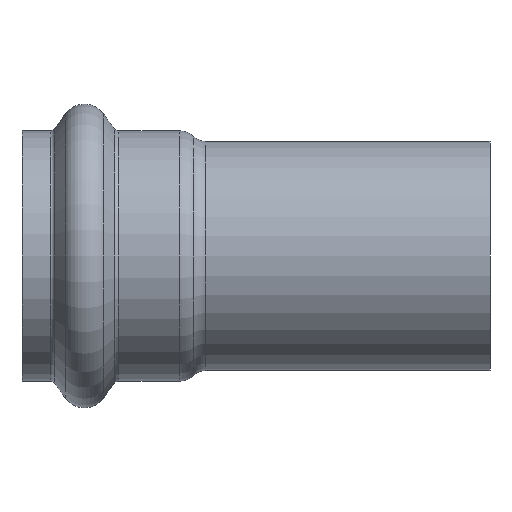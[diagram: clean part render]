
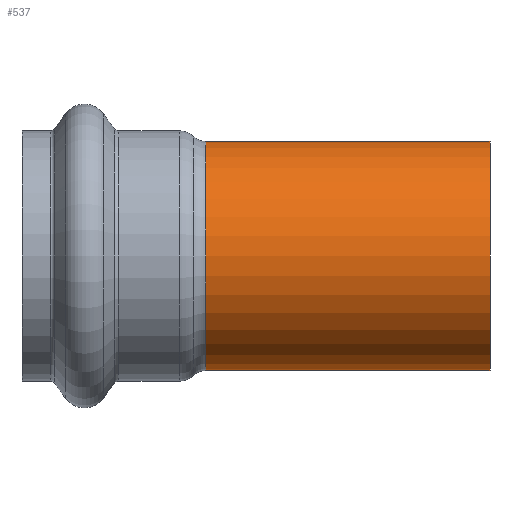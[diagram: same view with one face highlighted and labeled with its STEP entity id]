
A CAD part, front view. The second image highlights one B-rep face of the part: STEP entity #537.
In plain terms, the highlighted cylindrical face has radius 30.163 mm (diameter 60.325 mm), a full revolution.
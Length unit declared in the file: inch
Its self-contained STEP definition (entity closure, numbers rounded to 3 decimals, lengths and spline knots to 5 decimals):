
#50=CYLINDRICAL_SURFACE('',#610,1.1875);
#58=LINE('',#972,#68);
#68=VECTOR('',#765,1.1875);
#87=FACE_OUTER_BOUND('',#109,.T.);
#109=EDGE_LOOP('',(#397,#398,#399,#400,#401,#402,#403));
#153=CIRCLE('',#607,1.1875);
#154=CIRCLE('',#608,1.1875);
#155=CIRCLE('',#609,1.1875);
#156=CIRCLE('',#611,1.1875);
#157=CIRCLE('',#612,1.1875);
#218=VERTEX_POINT('',#960);
#219=VERTEX_POINT('',#962);
#220=VERTEX_POINT('',#964);
#221=VERTEX_POINT('',#968);
#222=VERTEX_POINT('',#969);
#286=EDGE_CURVE('',#219,#218,#153,.T.);
#287=EDGE_CURVE('',#220,#219,#154,.T.);
#288=EDGE_CURVE('',#218,#220,#155,.T.);
#289=EDGE_CURVE('',#221,#222,#156,.T.);
#290=EDGE_CURVE('',#222,#221,#157,.T.);
#291=EDGE_CURVE('',#222,#220,#58,.T.);
#397=ORIENTED_EDGE('',*,*,#289,.F.);
#398=ORIENTED_EDGE('',*,*,#290,.F.);
#399=ORIENTED_EDGE('',*,*,#291,.T.);
#400=ORIENTED_EDGE('',*,*,#287,.T.);
#401=ORIENTED_EDGE('',*,*,#286,.T.);
#402=ORIENTED_EDGE('',*,*,#288,.T.);
#403=ORIENTED_EDGE('',*,*,#291,.F.);
#537=ADVANCED_FACE('',(#87),#50,.T.);
#607=AXIS2_PLACEMENT_3D('',#963,#753,#754);
#608=AXIS2_PLACEMENT_3D('',#965,#755,#756);
#609=AXIS2_PLACEMENT_3D('',#966,#757,#758);
#610=AXIS2_PLACEMENT_3D('',#967,#759,#760);
#611=AXIS2_PLACEMENT_3D('',#970,#761,#762);
#612=AXIS2_PLACEMENT_3D('',#971,#763,#764);
#753=DIRECTION('center_axis',(1.,0.,0.));
#754=DIRECTION('ref_axis',(0.,1.,0.));
#755=DIRECTION('center_axis',(1.,0.,0.));
#756=DIRECTION('ref_axis',(0.,1.,0.));
#757=DIRECTION('center_axis',(1.,0.,0.));
#758=DIRECTION('ref_axis',(0.,1.,0.));
#759=DIRECTION('center_axis',(1.,0.,0.));
#760=DIRECTION('ref_axis',(0.,1.,0.));
#761=DIRECTION('center_axis',(1.,0.,0.));
#762=DIRECTION('ref_axis',(0.,1.,0.));
#763=DIRECTION('center_axis',(1.,0.,0.));
#764=DIRECTION('ref_axis',(0.,1.,0.));
#765=DIRECTION('',(-1.,0.,0.));
#960=CARTESIAN_POINT('',(-0.52135,0.,1.1875));
#962=CARTESIAN_POINT('',(-0.52135,1.1875,0.));
#963=CARTESIAN_POINT('Origin',(-0.52135,0.,
0.));
#964=CARTESIAN_POINT('',(-0.52135,-1.1875,0.));
#965=CARTESIAN_POINT('Origin',(-0.52135,0.,
0.));
#966=CARTESIAN_POINT('Origin',(-0.52135,0.,
0.));
#967=CARTESIAN_POINT('Origin',(0.95182,0.,0.));
#968=CARTESIAN_POINT('',(2.425,1.1875,0.));
#969=CARTESIAN_POINT('',(2.425,-1.1875,0.));
#970=CARTESIAN_POINT('Origin',(2.425,0.,0.));
#971=CARTESIAN_POINT('Origin',(2.425,0.,0.));
#972=CARTESIAN_POINT('',(0.95182,-1.1875,0.));
